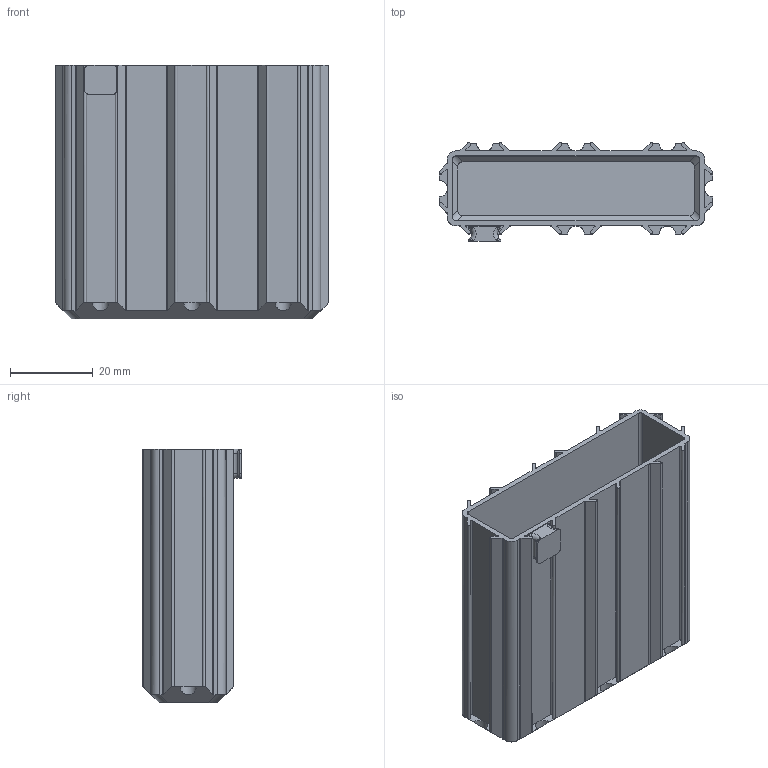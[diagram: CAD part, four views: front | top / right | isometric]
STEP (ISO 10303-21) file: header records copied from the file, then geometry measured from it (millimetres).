
FILE_DESCRIPTION(/* description */ (''),/* implementation_level */ '2;1');
FILE_NAME(/* name */ 'BOX_x03_y01_z060_tx0_ty0.stp',/* time_stamp */ '2024-02-16T08:37:03+01:00',/* author */ ('ott'),/* organization */ (''),/* preprocessor_version */ 'ST-DEVELOPER v19.2',/* originating_system */ 'Autodesk Inventor 2023',/* authorisation */ '');
FILE_SCHEMA (('AUTOMOTIVE_DESIGN { 1 0 10303 214 3 1 1 }'));
Length unit declared in the file: millimetre
Products named in the file (1): BOX_x03_y01_z060_tx0_ty0
Bounding box: 66 x 23.8 x 61.2 mm (x, y, z)
Volume: 14386.4 mm3; surface area: 24626.5 mm2
Topology: 2 solids, 2 shells, 179 faces, 500 edges, 326 vertices
Faces by surface type: plane 95, cylinder 80, torus 4
Entity records: 6080 total; most frequent: CARTESIAN_POINT 1090, DIRECTION 1036, ORIENTED_EDGE 1000, EDGE_CURVE 500, AXIS2_PLACEMENT_3D 364, VERTEX_POINT 326, LINE 308, VECTOR 308
